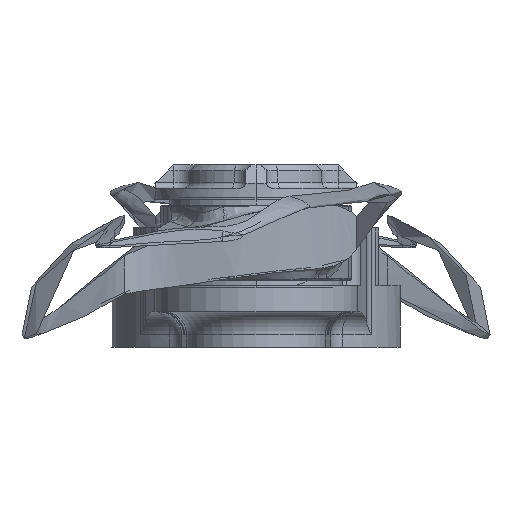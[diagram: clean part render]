
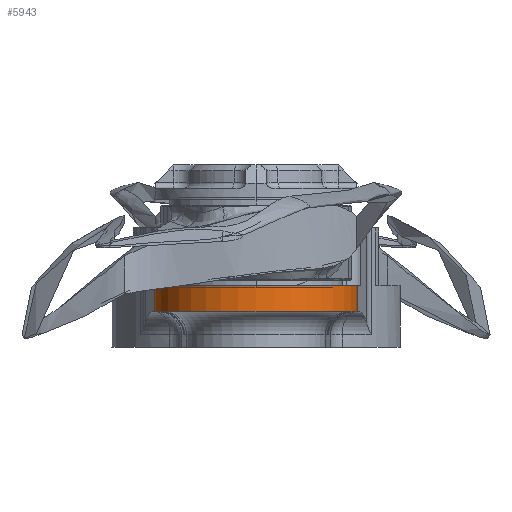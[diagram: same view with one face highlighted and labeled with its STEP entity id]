
A CAD part, left-side view. The second image highlights one B-rep face of the part: STEP entity #5943.
In plain terms, the highlighted cylindrical face has radius 17.5 mm (diameter 35 mm), a partial arc.
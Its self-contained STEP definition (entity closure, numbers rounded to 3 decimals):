
#1021 = CARTESIAN_POINT ( 'NONE',  ( -34.111, 16.479, 0. ) ) ;
#1045 = DIRECTION ( 'NONE',  ( 0., 0., 1. ) ) ;
#1669 = VERTEX_POINT ( 'NONE', #35228 ) ;
#1695 = CARTESIAN_POINT ( 'NONE',  ( -34.111, -16.479, -4.5 ) ) ;
#3068 = VERTEX_POINT ( 'NONE', #11036 ) ;
#4348 = CIRCLE ( 'NONE', #15798, 17.5 ) ;
#4612 = CARTESIAN_POINT ( 'NONE',  ( -34.111, 16.479, -4.5 ) ) ;
#4767 = EDGE_CURVE ( 'NONE', #1669, #3068, #4348, .T. ) ;
#4830 = CIRCLE ( 'NONE', #24265, 17.5 ) ;
#5943 = ADVANCED_FACE ( 'NONE', ( #9109 ), #14662, .T. ) ;
#8709 = DIRECTION ( 'NONE',  ( 0., 0., 1. ) ) ;
#8884 = EDGE_CURVE ( 'NONE', #3068, #15343, #12631, .T. ) ;
#9109 = FACE_OUTER_BOUND ( 'NONE', #21643, .T. ) ;
#9286 = DIRECTION ( 'NONE',  ( 1., 0., 0. ) ) ;
#9823 = LINE ( 'NONE', #4612, #25800 ) ;
#9894 = VERTEX_POINT ( 'NONE', #1021 ) ;
#11036 = CARTESIAN_POINT ( 'NONE',  ( -34.111, -16.479, -4.5 ) ) ;
#12631 = LINE ( 'NONE', #1695, #19338 ) ;
#12656 = EDGE_CURVE ( 'NONE', #9894, #1669, #9823, .T. ) ;
#13388 = CARTESIAN_POINT ( 'NONE',  ( -40., 0., 0. ) ) ;
#14662 = CYLINDRICAL_SURFACE ( 'NONE', #31463, 17.5 ) ;
#15343 = VERTEX_POINT ( 'NONE', #21242 ) ;
#15374 = DIRECTION ( 'NONE',  ( 1., 0., 0. ) ) ;
#15798 = AXIS2_PLACEMENT_3D ( 'NONE', #21101, #23623, #15374 ) ;
#18710 = EDGE_CURVE ( 'NONE', #9894, #15343, #4830, .T. ) ;
#18941 = DIRECTION ( 'NONE',  ( 1., 0., 0. ) ) ;
#19338 = VECTOR ( 'NONE', #20526, 1000. ) ;
#20526 = DIRECTION ( 'NONE',  ( 0., 0., 1. ) ) ;
#20625 = ORIENTED_EDGE ( 'NONE', *, *, #8884, .T. ) ;
#20952 = ORIENTED_EDGE ( 'NONE', *, *, #4767, .T. ) ;
#21027 = ORIENTED_EDGE ( 'NONE', *, *, #18710, .F. ) ;
#21101 = CARTESIAN_POINT ( 'NONE',  ( -40., 0., -4.5 ) ) ;
#21242 = CARTESIAN_POINT ( 'NONE',  ( -34.111, -16.479, 0. ) ) ;
#21643 = EDGE_LOOP ( 'NONE', ( #20952, #20625, #21027, #21889 ) ) ;
#21889 = ORIENTED_EDGE ( 'NONE', *, *, #12656, .T. ) ;
#23623 = DIRECTION ( 'NONE',  ( 0., 0., 1. ) ) ;
#23952 = DIRECTION ( 'NONE',  ( 0., 0., -1. ) ) ;
#24265 = AXIS2_PLACEMENT_3D ( 'NONE', #13388, #8709, #18941 ) ;
#25800 = VECTOR ( 'NONE', #23952, 1000. ) ;
#31463 = AXIS2_PLACEMENT_3D ( 'NONE', #34019, #1045, #9286 ) ;
#34019 = CARTESIAN_POINT ( 'NONE',  ( -40., 0., -4.5 ) ) ;
#35228 = CARTESIAN_POINT ( 'NONE',  ( -34.111, 16.479, -4.5 ) ) ;
